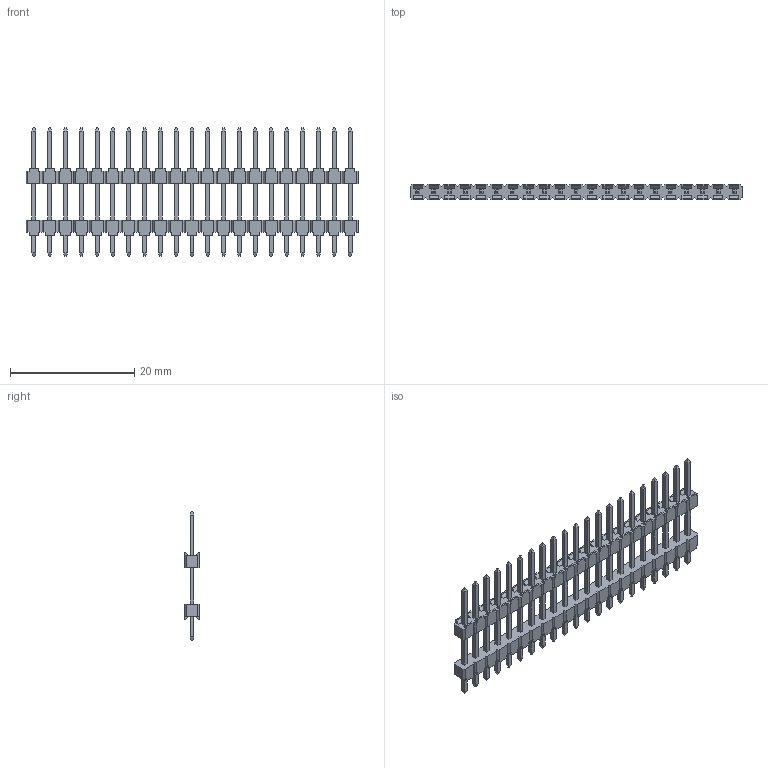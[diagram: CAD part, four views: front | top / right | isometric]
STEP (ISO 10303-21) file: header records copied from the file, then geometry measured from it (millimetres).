
FILE_DESCRIPTION(/* description */ (''),/* implementation_level */ '2;1');
FILE_NAME(/* name */ '961421-9041804-XX',/* time_stamp */ '2007-06-14T17:46:32+02:00',/* author */ (''),/* organization */ (''),/* preprocessor_version */ 'ST-DEVELOPER v9',/* originating_system */ 'UGS - NX 3.0',/* authorisation */ '');
FILE_SCHEMA (('AUTOMOTIVE_DESIGN { 1 0 10303 214 1 1 1 1 }'));
Length unit declared in the file: millimetre
Products named in the file (1): 961421-9041804-XX
Bounding box: 53.34 x 2.5 x 20.6 mm (x, y, z)
Volume: 685.5 mm3; surface area: 1971.7 mm2
Topology: 1 solids, 1 shells, 1146 faces, 3132 edges, 2032 vertices
Faces by surface type: plane 1146
Entity records: 35356 total; most frequent: CARTESIAN_POINT 6311, ORIENTED_EDGE 6264, DIRECTION 5426, EDGE_CURVE 3132, LINE 3132, VECTOR 3132, VERTEX_POINT 2032, EDGE_LOOP 1230
